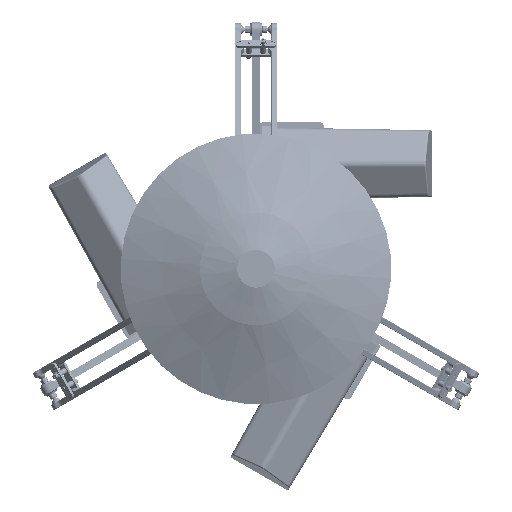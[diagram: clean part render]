
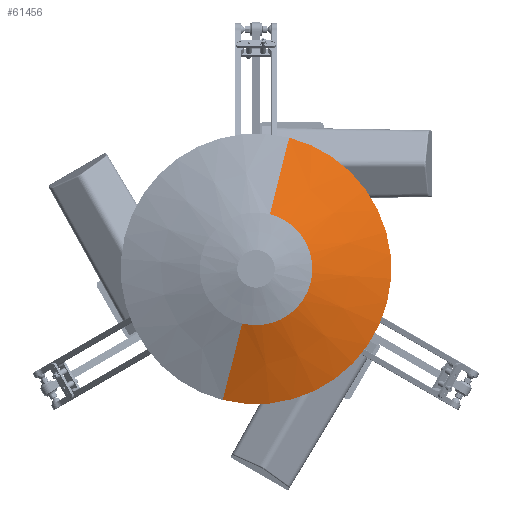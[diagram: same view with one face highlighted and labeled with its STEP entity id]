
A CAD part, front view. The second image highlights one B-rep face of the part: STEP entity #61456.
In plain terms, the highlighted conical face has half-angle 69.146 degrees and reference radius 180 mm.
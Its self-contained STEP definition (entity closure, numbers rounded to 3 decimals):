
#1564 = CARTESIAN_POINT ( 'NONE',  ( 0., -100., -180. ) ) ;
#4367 = CARTESIAN_POINT ( 'NONE',  ( 75., -140., 0. ) ) ;
#8869 = ORIENTED_EDGE ( 'NONE', *, *, #216103, .F. ) ;
#11734 = VECTOR ( 'NONE', #135537, 1000. ) ;
#16230 = DIRECTION ( 'NONE',  ( 0., 0., 1. ) ) ;
#27954 = DIRECTION ( 'NONE',  ( 0., 0.356, 0.934 ) ) ;
#30421 = FACE_OUTER_BOUND ( 'NONE', #89847, .T. ) ;
#46577 = CARTESIAN_POINT ( 'NONE',  ( 0., -100., 180. ) ) ;
#47001 = AXIS2_PLACEMENT_3D ( 'NONE', #110520, #144085, #16230 ) ;
#49437 = VERTEX_POINT ( 'NONE', #4367 ) ;
#57161 = CONICAL_SURFACE ( 'NONE', #168146, 180., 1.207 ) ;
#57662 = CIRCLE ( 'NONE', #152812, 75. ) ;
#61456 = ADVANCED_FACE ( 'NONE', ( #30421 ), #57161, .T. ) ;
#61638 = DIRECTION ( 'NONE',  ( 0., 0., -1. ) ) ;
#73737 = ORIENTED_EDGE ( 'NONE', *, *, #194043, .T. ) ;
#73757 = VECTOR ( 'NONE', #27954, 1000. ) ;
#74162 = DIRECTION ( 'NONE',  ( 0., 1., 0. ) ) ;
#77775 = DIRECTION ( 'NONE',  ( 0., 0., 1. ) ) ;
#89180 = EDGE_CURVE ( 'NONE', #182923, #49437, #57662, .T. ) ;
#89847 = EDGE_LOOP ( 'NONE', ( #73737, #115035, #196239, #8869, #191643 ) ) ;
#104864 = VERTEX_POINT ( 'NONE', #208820 ) ;
#110520 = CARTESIAN_POINT ( 'NONE',  ( 0., -140., 0. ) ) ;
#115035 = ORIENTED_EDGE ( 'NONE', *, *, #154973, .T. ) ;
#120641 = AXIS2_PLACEMENT_3D ( 'NONE', #181785, #231768, #61638 ) ;
#122295 = CIRCLE ( 'NONE', #47001, 75. ) ;
#124592 = CIRCLE ( 'NONE', #120641, 180. ) ;
#127120 = CARTESIAN_POINT ( 'NONE',  ( 0., -100., 180. ) ) ;
#130392 = VERTEX_POINT ( 'NONE', #220727 ) ;
#135537 = DIRECTION ( 'NONE',  ( 0., 0.356, -0.934 ) ) ;
#144085 = DIRECTION ( 'NONE',  ( 0., 1., 0. ) ) ;
#152812 = AXIS2_PLACEMENT_3D ( 'NONE', #226933, #74162, #77775 ) ;
#152824 = DIRECTION ( 'NONE',  ( 0., 1., 0. ) ) ;
#154973 = EDGE_CURVE ( 'NONE', #104864, #130392, #171533, .T. ) ;
#158257 = LINE ( 'NONE', #46577, #73757 ) ;
#168146 = AXIS2_PLACEMENT_3D ( 'NONE', #200586, #152824, #170291 ) ;
#170291 = DIRECTION ( 'NONE',  ( 0., 0., 1. ) ) ;
#171533 = LINE ( 'NONE', #1564, #11734 ) ;
#181785 = CARTESIAN_POINT ( 'NONE',  ( 0., -100., 0. ) ) ;
#182923 = VERTEX_POINT ( 'NONE', #197211 ) ;
#191643 = ORIENTED_EDGE ( 'NONE', *, *, #89180, .T. ) ;
#194043 = EDGE_CURVE ( 'NONE', #49437, #104864, #122295, .T. ) ;
#196239 = ORIENTED_EDGE ( 'NONE', *, *, #197094, .F. ) ;
#197094 = EDGE_CURVE ( 'NONE', #202918, #130392, #124592, .T. ) ;
#197211 = CARTESIAN_POINT ( 'NONE',  ( 0., -140., 75. ) ) ;
#200586 = CARTESIAN_POINT ( 'NONE',  ( 0., -100., 0. ) ) ;
#202918 = VERTEX_POINT ( 'NONE', #127120 ) ;
#208820 = CARTESIAN_POINT ( 'NONE',  ( 0., -140., -75. ) ) ;
#216103 = EDGE_CURVE ( 'NONE', #182923, #202918, #158257, .T. ) ;
#220727 = CARTESIAN_POINT ( 'NONE',  ( 0., -100., -180. ) ) ;
#226933 = CARTESIAN_POINT ( 'NONE',  ( 0., -140., 0. ) ) ;
#231768 = DIRECTION ( 'NONE',  ( 0., 1., 0. ) ) ;
